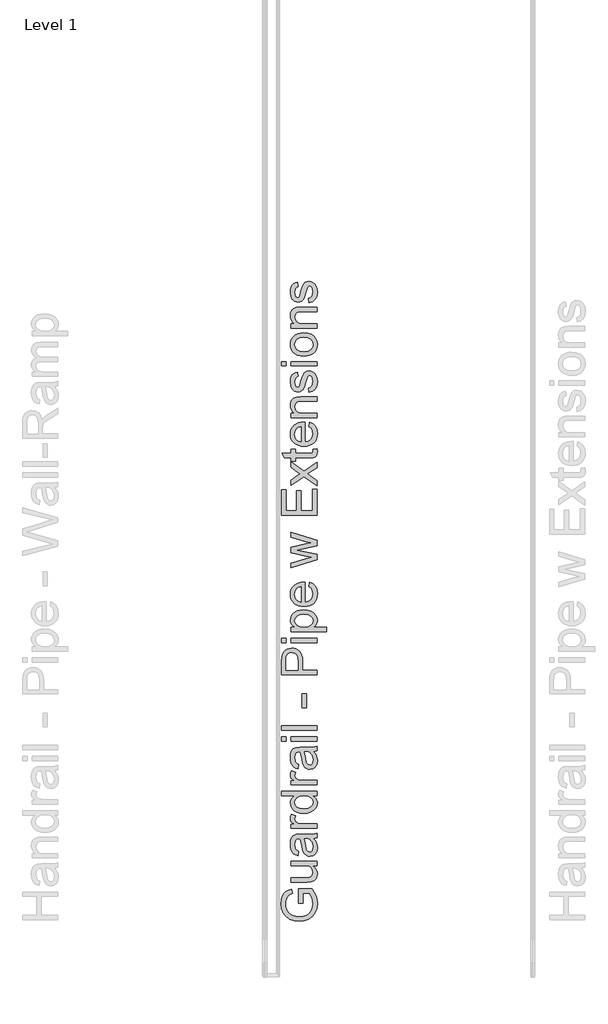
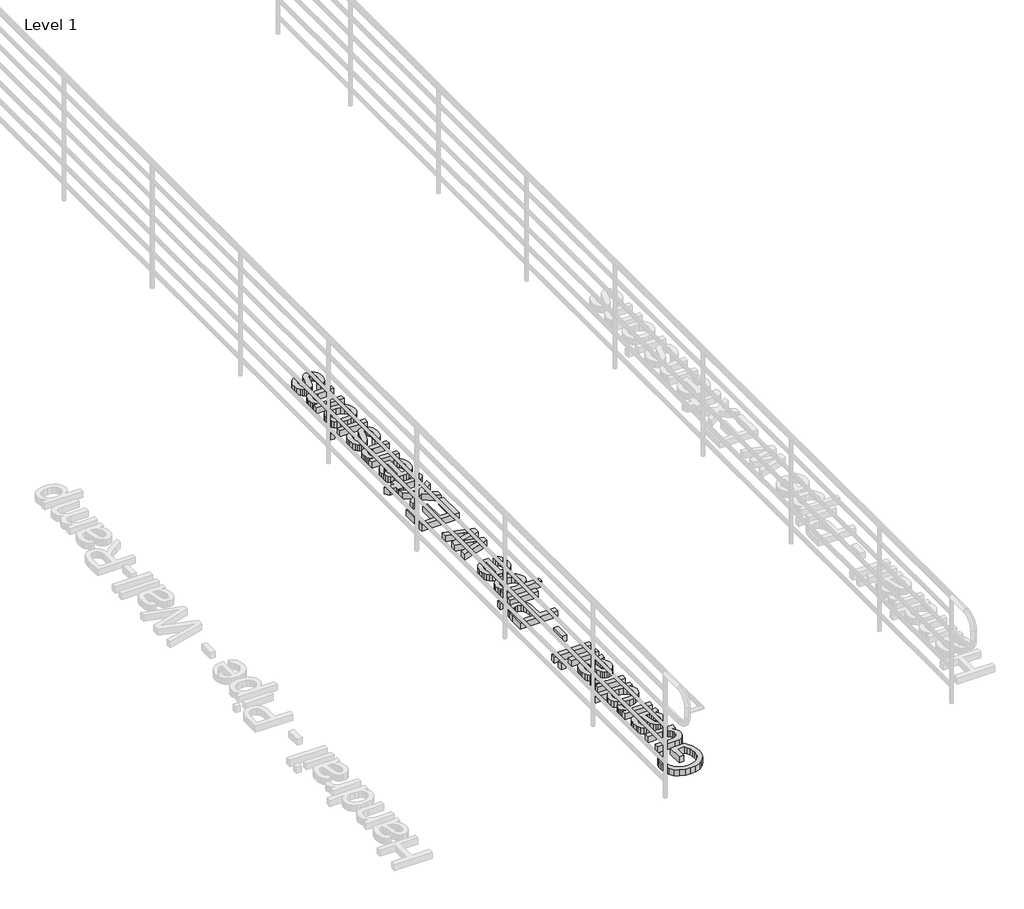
# One storey, part 10 of 14: 1 proxy.
"""IFC4 building model written with IfcOpenShell, lengths in millimetres."""

from ifc_helpers import new_model, si_unit, origin, origin_with_axes, place, context, project, spatial, polyline, outline, extrude, element, save

model = new_model("IFC4")

# Units and contexts
model_context = context("Model", 3, world=origin())
ifc_project = project(units=[si_unit("LENGTHUNIT", "METRE", prefix="MILLI")], contexts=[model_context])

# Site, building, storey
site = spatial("IfcSite", under=ifc_project)
building = spatial("IfcBuilding", under=site)
storey = spatial("IfcBuildingStorey", under=building, Name="Level 1", Elevation=0.0)

# Proxy
placement = place(None, origin())
element("IfcBuildingElementProxy", 1, Name="12\" Arial", ObjectType="12\" Arial", at=placement, inside=storey, context=model_context, shape_type="SweptSolid", body=[
    extrude(outline(polyline([(-3457.7431826, -14350.6919282), (-3495.2570288, -14350.6919282), (-3495.2570288, -14228.7719282), (-3383.0818365, -14228.7719282), (-3362.4748653, -14258.4001734), (-3347.692798, -14288.9626013), (-3338.7905865, -14320.3859426), (-3335.8231826, -14352.5969282), (-3340.5398894, -14394.6809426), (-3354.6900095, -14432.716832), (-3377.7789759, -14464.3141878), (-3409.3122211, -14487.0826013), (-3447.1374615, -14500.848058), (-3489.1024134, -14505.4365436), (-3531.3696009, -14500.8663753), (-3570.6877019, -14487.1558705), (-3603.6680144, -14464.8728657), (-3626.9218365, -14434.5851974), (-3640.7147692, -14397.6941397), (-3645.3124134, -14355.6009666), (-3642.6472451, -14324.6996686), (-3634.6517403, -14296.9123128), (-3621.9028942, -14273.5119522), (-3604.9777019, -14255.7716397), (-3583.0610432, -14242.6472888), (-3555.337798, -14233.0948128), (-3545.5929903, -14267.6778897), (-3565.366524, -14275.3986349), (-3580.2859711, -14284.7862551), (-3591.532798, -14297.2053897), (-3600.2884711, -14314.0206782), (-3605.9210432, -14334.0689714), (-3607.7985672, -14356.1871205), (-3605.7745047, -14382.0786349), (-3599.7023172, -14404.2151013), (-3590.342173, -14422.5140916), (-3578.4542403, -14436.8931782), (-3549.5495288, -14456.1996205), (-3521.2309711, -14464.9919282), (-3490.6410672, -14467.9226974), (-3454.7666201, -14464.3966157), (-3425.2482788, -14453.8183705), (-3402.2966922, -14436.5085147), (-3386.1225095, -14412.7876013), (-3376.533399, -14385.0277214), (-3373.3370288, -14355.6009666), (-3375.7457547, -14329.6178657), (-3382.9719326, -14304.2758705), (-3392.9273894, -14282.2676253), (-3403.5239519, -14266.2857743), (-3457.7431826, -14266.2857743), (-3457.7431826, -14350.6919282)])), origin_with_axes(), (0.0, 0.0, 1.0), 50.8),
    extrude(outline(polyline([(-3340.5124134, -14031.8242359), (-3378.3926057, -14031.8242359), (-3359.7684831, -14045.3973609), (-3346.4655384, -14061.2051974), (-3338.4837716, -14079.2477455), (-3335.8231826, -14099.5250051), (-3337.691548, -14117.7965195), (-3343.2966442, -14134.8041397), (-3351.7226057, -14149.0733224), (-3362.0535672, -14159.1295243), (-3389.6760672, -14170.303082), (-3424.5522211, -14172.5011589), (-3560.9062595, -14172.5011589), (-3560.9062595, -14134.9873128), (-3442.2101057, -14134.9873128), (-3403.9635672, -14132.7159666), (-3391.2055624, -14127.2482503), (-3381.506548, -14117.8789474), (-3375.3794086, -14105.2308464), (-3373.3370288, -14089.9267359), (-3375.4252019, -14073.7433945), (-3381.6897211, -14058.6041397), (-3391.5535913, -14046.1208945), (-3404.4398172, -14037.905582), (-3422.0885432, -14033.3445724), (-3446.2399134, -14031.8242359), (-3560.9062595, -14031.8242359), (-3560.9062595, -13994.3103897), (-3340.5124134, -13994.3103897), (-3340.5124134, -14031.8242359)])), origin_with_axes(), (0.0, 0.0, 1.0), 50.8),
    extrude(outline(polyline([(-3368.647798, -13802.0519282), (-3353.2795769, -13819.9754138), (-3343.2233749, -13838.4301013), (-3337.6732307, -13857.8372888), (-3335.8231826, -13878.6182743), (-3340.2742884, -13909.9683464), (-3353.6276057, -13933.0939474), (-3373.9048653, -13947.3539714), (-3399.127798, -13952.1073128), (-3414.6791922, -13950.3122166), (-3428.8018365, -13944.9269282), (-3440.8912595, -13936.6200291), (-3450.3429903, -13926.0601013), (-3462.6522211, -13899.793082), (-3468.2939519, -13867.3348128), (-3474.2287595, -13828.9783705), (-3481.1893365, -13802.2717359), (-3489.5420288, -13802.0519282), (-3506.284048, -13804.6346686), (-3517.237798, -13812.3828897), (-3525.3706826, -13829.7110628), (-3528.0816442, -13853.8532743), (-3526.2773894, -13876.2003897), (-3520.8646249, -13891.8067359), (-3510.8542163, -13902.4490916), (-3495.2570288, -13909.9042359), (-3499.9462595, -13947.418082), (-3520.4616442, -13940.9062791), (-3536.5808749, -13931.1889474), (-3548.908423, -13917.3593801), (-3558.0487595, -13898.5108705), (-3563.7088076, -13875.4585388), (-3565.5954903, -13849.0175051), (-3563.9286153, -13823.6571926), (-3558.9279903, -13803.5539474), (-3551.4087355, -13788.3963753), (-3542.1859711, -13777.873082), (-3530.783447, -13770.8941878), (-3516.7249134, -13766.3698128), (-3483.900298, -13764.538082), (-3437.227798, -13764.538082), (-3372.0548172, -13762.633082), (-3340.5124134, -13755.1596205), (-3340.5124134, -13792.6734666), (-3368.647798, -13802.0519282)]), holes=[polyline([(-3443.6754903, -13802.0519282), (-3432.1722211, -13862.5723128), (-3426.0908749, -13894.8474089), (-3416.1995288, -13909.4646205), (-3401.7654903, -13914.5934666), (-3390.6102499, -13911.8000772), (-3381.4699134, -13903.4199089), (-3375.3702499, -13889.6361349), (-3373.3370288, -13870.6319282), (-3375.580899, -13850.4828897), (-3382.3125095, -13832.6784666), (-3392.2313317, -13818.2444282), (-3404.0368365, -13808.2065436), (-3416.1995288, -13803.7554378), (-3433.0514519, -13802.2717359), (-3443.6754903, -13802.0519282)])]), origin_with_axes(), (0.0, 0.0, 1.0), 50.8),
    extrude(outline(polyline([(-3340.5124134, -13712.9565436), (-3560.9062595, -13712.9565436), (-3560.9062595, -13680.1319282), (-3528.3014519, -13680.1319282), (-3547.2049134, -13668.0058705), (-3558.3418365, -13656.8323128), (-3563.7820769, -13645.6221205), (-3565.5954903, -13633.3861589), (-3562.7013557, -13614.7025051), (-3554.0189519, -13595.7257743), (-3520.3883749, -13608.2548128), (-3526.1583269, -13621.4432743), (-3528.0816442, -13634.6317359), (-3526.2315961, -13645.8327695), (-3520.6814519, -13655.8431782), (-3511.8525095, -13663.9302695), (-3500.1660672, -13669.3613513), (-3479.2110672, -13673.9223609), (-3456.3510672, -13675.4426974), (-3340.5124134, -13675.4426974), (-3340.5124134, -13712.9565436)])), origin_with_axes(), (0.0, 0.0, 1.0), 50.8),
    extrude(outline(polyline([(-3340.5124134, -13436.2919282), (-3375.9014519, -13436.2919282), (-3358.3672091, -13447.5158585), (-3345.8427499, -13461.1118801), (-3338.3280745, -13477.0799931), (-3335.8231826, -13495.4201974), (-3339.4500095, -13519.6723128), (-3350.3304903, -13541.8728897), (-3367.7044567, -13560.6664474), (-3390.8117403, -13574.6975051), (-3418.7181586, -13583.4348609), (-3450.4895288, -13586.3473128), (-3481.8670769, -13583.6638272), (-3510.2039519, -13575.6133705), (-3533.8882307, -13562.2051013), (-3551.3079903, -13543.4481782), (-3562.0236153, -13520.7621926), (-3565.5954903, -13495.5667359), (-3563.0402259, -13477.2127936), (-3555.3744326, -13460.9836589), (-3543.6238797, -13447.2273609), (-3528.8143365, -13436.2919282), (-3640.6231826, -13436.2919282), (-3640.6231826, -13398.778082), (-3340.5124134, -13398.778082), (-3340.5124134, -13436.2919282)]), holes=[polyline([(-3450.6360672, -13548.8334666), (-3416.7032547, -13544.6021686), (-3392.5702019, -13531.9082743), (-3378.145322, -13513.4627455), (-3373.3370288, -13491.9765436), (-3377.9255144, -13470.4995003), (-3391.6909711, -13452.5210628), (-3414.8898413, -13440.3492118), (-3447.7785672, -13436.2919282), (-3483.7354422, -13440.4224811), (-3508.665298, -13452.8141397), (-3523.2275576, -13471.2505099), (-3528.0816442, -13493.5151974), (-3523.4198894, -13515.221207), (-3509.4346249, -13533.0073128), (-3485.4114759, -13544.8769282), (-3450.6360672, -13548.8334666)])]), origin_with_axes(), (0.0, 0.0, 1.0), 50.8),
    extrude(outline(polyline([(-3340.5124134, -13342.5073128), (-3560.9062595, -13342.5073128), (-3560.9062595, -13309.6826974), (-3528.3014519, -13309.6826974), (-3547.2049134, -13297.5566397), (-3558.3418365, -13286.383082), (-3563.7820769, -13275.1728897), (-3565.5954903, -13262.9369282), (-3562.7013557, -13244.2532743), (-3554.0189519, -13225.2765436), (-3520.3883749, -13237.805582), (-3526.1583269, -13250.9940436), (-3528.0816442, -13264.1825051), (-3526.2315961, -13275.3835388), (-3520.6814519, -13285.3939474), (-3511.8525095, -13293.4810388), (-3500.1660672, -13298.9121205), (-3479.2110672, -13303.4731301), (-3456.3510672, -13304.9934666), (-3340.5124134, -13304.9934666), (-3340.5124134, -13342.5073128)])), origin_with_axes(), (0.0, 0.0, 1.0), 50.8),
    extrude(outline(polyline([(-3368.647798, -13061.1534666), (-3353.2795769, -13079.0769522), (-3343.2233749, -13097.5316397), (-3337.6732307, -13116.9388272), (-3335.8231826, -13137.7198128), (-3340.2742884, -13169.0698849), (-3353.6276057, -13192.1954859), (-3373.9048653, -13206.4555099), (-3399.127798, -13211.2088513), (-3414.6791922, -13209.4137551), (-3428.8018365, -13204.0284666), (-3440.8912595, -13195.7215676), (-3450.3429903, -13185.1616397), (-3462.6522211, -13158.8946205), (-3468.2939519, -13126.4363513), (-3474.2287595, -13088.0799089), (-3481.1893365, -13061.3732743), (-3489.5420288, -13061.1534666), (-3506.284048, -13063.736207), (-3517.237798, -13071.4844282), (-3525.3706826, -13088.8126013), (-3528.0816442, -13112.9548128), (-3526.2773894, -13135.3019282), (-3520.8646249, -13150.9082743), (-3510.8542163, -13161.5506301), (-3495.2570288, -13169.0057743), (-3499.9462595, -13206.5196205), (-3520.4616442, -13200.0078176), (-3536.5808749, -13190.2904859), (-3548.908423, -13176.4609186), (-3558.0487595, -13157.6124089), (-3563.7088076, -13134.5600772), (-3565.5954903, -13108.1190436), (-3563.9286153, -13082.7587311), (-3558.9279903, -13062.6554859), (-3551.4087355, -13047.4979138), (-3542.1859711, -13036.9746205), (-3530.783447, -13029.9957263), (-3516.7249134, -13025.4713513), (-3483.900298, -13023.6396205), (-3437.227798, -13023.6396205), (-3372.0548172, -13021.7346205), (-3340.5124134, -13014.2611589), (-3340.5124134, -13051.7750051), (-3368.647798, -13061.1534666)]), holes=[polyline([(-3443.6754903, -13061.1534666), (-3432.1722211, -13121.6738513), (-3426.0908749, -13153.9489474), (-3416.1995288, -13168.5661589), (-3401.7654903, -13173.6950051), (-3390.6102499, -13170.9016157), (-3381.4699134, -13162.5214474), (-3375.3702499, -13148.7376734), (-3373.3370288, -13129.7334666), (-3375.580899, -13109.5844282), (-3382.3125095, -13091.7800051), (-3392.2313317, -13077.3459666), (-3404.0368365, -13067.308082), (-3416.1995288, -13062.8569763), (-3433.0514519, -13061.3732743), (-3443.6754903, -13061.1534666)])]), origin_with_axes(), (0.0, 0.0, 1.0), 50.8),
    extrude(outline(polyline([(-3603.1093365, -12972.058082), (-3640.6231826, -12972.058082), (-3640.6231826, -12934.5442359), (-3603.1093365, -12934.5442359), (-3603.1093365, -12972.058082)])), origin_with_axes(), (0.0, 0.0, 1.0), 50.8),
    extrude(outline(polyline([(-3340.5124134, -12972.058082), (-3560.9062595, -12972.058082), (-3560.9062595, -12934.5442359), (-3340.5124134, -12934.5442359), (-3340.5124134, -12972.058082)])), origin_with_axes(), (0.0, 0.0, 1.0), 50.8),
    extrude(outline(polyline([(-3340.5124134, -12878.2734666), (-3640.6231826, -12878.2734666), (-3640.6231826, -12840.7596205), (-3340.5124134, -12840.7596205), (-3340.5124134, -12878.2734666)])), origin_with_axes(), (0.0, 0.0, 1.0), 50.8),
    extrude(outline(polyline([(-3429.607798, -12686.0150051), (-3467.1216442, -12686.0150051), (-3467.1216442, -12568.7842359), (-3429.607798, -12568.7842359), (-3429.607798, -12686.0150051)])), origin_with_axes(), (0.0, 0.0, 1.0), 50.8),
    extrude(outline(polyline([(-3340.5124134, -12404.6611589), (-3640.6231826, -12404.6611589), (-3640.6231826, -12293.4384666), (-3637.7656826, -12248.5976974), (-3632.4261874, -12228.6043561), (-3623.7346249, -12212.1462551), (-3611.297173, -12198.893683), (-3594.7200095, -12188.5169282), (-3575.1662836, -12181.8127936), (-3553.7991442, -12179.578082), (-3535.376512, -12181.0869702), (-3518.428423, -12185.6136349), (-3502.9548773, -12193.158076), (-3488.9558749, -12203.7202936), (-3477.3518605, -12218.2207323), (-3469.0632788, -12237.5798368), (-3464.0901297, -12261.7976073), (-3462.4324134, -12290.8740436), (-3462.4324134, -12367.1473128), (-3340.5124134, -12367.1473128), (-3340.5124134, -12404.6611589)]), holes=[polyline([(-3499.9462595, -12367.1473128), (-3499.9462595, -12288.6759666), (-3503.3899134, -12255.4117359), (-3513.7208749, -12233.4309666), (-3530.2980384, -12221.1766878), (-3552.480298, -12217.0919282), (-3569.3322211, -12219.5006541), (-3583.5464519, -12226.726832), (-3594.2437595, -12237.8729138), (-3600.5449134, -12252.0413513), (-3603.1093365, -12289.5551974), (-3603.1093365, -12367.1473128), (-3499.9462595, -12367.1473128)])]), origin_with_axes(), (0.0, 0.0, 1.0), 50.8),
    extrude(outline(polyline([(-3603.1093365, -12132.6857743), (-3640.6231826, -12132.6857743), (-3640.6231826, -12095.1719282), (-3603.1093365, -12095.1719282), (-3603.1093365, -12132.6857743)])), origin_with_axes(), (0.0, 0.0, 1.0), 50.8),
    extrude(outline(polyline([(-3340.5124134, -12132.6857743), (-3560.9062595, -12132.6857743), (-3560.9062595, -12095.1719282), (-3340.5124134, -12095.1719282), (-3340.5124134, -12132.6857743)])), origin_with_axes(), (0.0, 0.0, 1.0), 50.8),
    extrude(outline(polyline([(-3256.1062595, -12038.9011589), (-3560.9062595, -12038.9011589), (-3560.9062595, -12001.3873128), (-3524.1251057, -12001.3873128), (-3542.268399, -11989.1513513), (-3555.2278942, -11975.4500051), (-3563.0035913, -11959.4773128), (-3565.5954903, -11940.4273128), (-3561.9686634, -11915.0578416), (-3551.0881826, -11892.875582), (-3533.6134711, -11874.8147166), (-3510.2039519, -11861.8094282), (-3482.5631345, -11853.9513032), (-3452.3945288, -11851.3319282), (-3420.3117644, -11854.2901734), (-3391.6177019, -11863.1649089), (-3367.7685672, -11877.6722166), (-3350.2205865, -11897.5281782), (-3339.4225336, -11920.6537791), (-3335.8231826, -11944.9700051), (-3338.2319086, -11962.2157503), (-3345.4580865, -11977.6114474), (-3356.3660432, -11990.7907503), (-3369.8201057, -12001.3873128), (-3256.1062595, -12001.3873128), (-3256.1062595, -12038.9011589)]), holes=[polyline([(-3448.9508749, -12001.3873128), (-3415.320298, -11997.3300291), (-3391.8008749, -11985.1581782), (-3377.9529903, -11967.198058), (-3373.3370288, -11945.7759666), (-3378.1178461, -11924.0058464), (-3392.460298, -11905.5877936), (-3416.8406345, -11893.0312791), (-3451.7351057, -11888.8457743), (-3485.1825095, -11892.9305339), (-3509.0316442, -11905.1848128), (-3523.3191442, -11923.117457), (-3528.0816442, -11944.2373128), (-3523.0169086, -11965.4395964), (-3507.8227019, -11984.0591397), (-3482.975274, -11997.0552695), (-3448.9508749, -12001.3873128)])]), origin_with_axes(), (0.0, 0.0, 1.0), 50.8),
    extrude(outline(polyline([(-3406.1616442, -11654.8238513), (-3401.4724134, -11618.0426974), (-3373.7583269, -11631.2952695), (-3353.0414519, -11652.4426013), (-3340.1277499, -11681.0084426), (-3335.8231826, -11716.5165436), (-3337.6800997, -11739.7932623), (-3343.2508509, -11760.5330339), (-3352.5354362, -11778.7358585), (-3365.5338557, -11794.4017359), (-3381.8843425, -11806.9994642), (-3401.2251297, -11815.9978416), (-3423.5562175, -11821.3968681), (-3448.8776057, -11823.1965436), (-3475.0576177, -11821.3785508), (-3498.1328461, -11815.9245724), (-3518.1032908, -11806.8346085), (-3534.9689519, -11794.1086589), (-3548.3680624, -11778.4839955), (-3557.9388557, -11760.6978897), (-3563.6813317, -11740.7503416), (-3565.5954903, -11718.6413513), (-3563.685911, -11697.2444462), (-3557.957173, -11677.8945003), (-3548.4092764, -11660.5915135), (-3535.0422211, -11645.3354859), (-3518.2131946, -11632.8820063), (-3498.2793845, -11623.9866638), (-3475.2407908, -11618.6494582), (-3449.0974134, -11616.8703897), (-3438.9862595, -11617.0901974), (-3438.9862595, -11785.6826974), (-3410.9058269, -11779.1892118), (-3390.2622211, -11764.1049089), (-3377.5683269, -11742.3347888), (-3373.3370288, -11715.7838513), (-3375.2969807, -11695.8179859), (-3381.1768365, -11679.0026974), (-3391.3429422, -11665.3379859), (-3406.1616442, -11654.8238513)]), holes=[polyline([(-3476.5001057, -11785.6826974), (-3476.5001057, -11654.3842359), (-3496.3194326, -11659.4581301), (-3510.4970288, -11669.4044282), (-3523.6854903, -11691.2752936), (-3528.0816442, -11718.7878897), (-3524.5738797, -11744.074933), (-3514.0505865, -11764.9841397), (-3497.6474374, -11779.5189234), (-3476.5001057, -11785.6826974)])]), origin_with_axes(), (0.0, 0.0, 1.0), 50.8),
    extrude(outline(polyline([(-3340.5124134, -11425.5644282), (-3560.9062595, -11492.6057743), (-3560.9062595, -11453.6265436), (-3432.3187595, -11415.5998128), (-3386.3789519, -11404.243082), (-3430.6335672, -11394.9378897), (-3560.9062595, -11364.6776974), (-3560.9062595, -11319.9834666), (-3430.9999134, -11289.8698128), (-3390.9216442, -11281.5903897), (-3433.1979903, -11269.7207743), (-3560.9062595, -11231.6207743), (-3560.9062595, -11192.4950051), (-3340.5124134, -11260.0492359), (-3340.5124134, -11305.4028897), (-3469.7593365, -11334.1976974), (-3510.0574134, -11342.5503897), (-3340.5124134, -11379.6978897), (-3340.5124134, -11425.5644282)])), origin_with_axes(), (0.0, 0.0, 1.0), 50.8),
    extrude(outline(polyline([(-3340.5124134, -11044.7842359), (-3640.6231826, -11044.7842359), (-3640.6231826, -10829.0796205), (-3603.1093365, -10829.0796205), (-3603.1093365, -11007.2703897), (-3514.0139519, -11007.2703897), (-3514.0139519, -10838.458082), (-3476.5001057, -10838.458082), (-3476.5001057, -11007.2703897), (-3378.0262595, -11007.2703897), (-3378.0262595, -10824.3903897), (-3340.5124134, -10824.3903897), (-3340.5124134, -11044.7842359)])), origin_with_axes(), (0.0, 0.0, 1.0), 50.8),
    extrude(outline(polyline([(-3340.5124134, -10796.2550051), (-3451.2954903, -10716.0984666), (-3560.9062595, -10791.5657743), (-3560.9062595, -10746.4319282), (-3508.1524134, -10710.0171205), (-3483.2408749, -10693.0186589), (-3503.6097211, -10678.2915436), (-3560.9062595, -10636.8211589), (-3560.9062595, -10591.6873128), (-3451.2954903, -10670.9646205), (-3340.5124134, -10594.618082), (-3340.5124134, -10639.7519282), (-3407.1141442, -10685.6917359), (-3419.2768365, -10694.1176974), (-3340.5124134, -10751.1211589), (-3340.5124134, -10796.2550051)])), origin_with_axes(), (0.0, 0.0, 1.0), 50.8),
    extrude(outline(polyline([(-3371.7983749, -10482.0765436), (-3339.4133749, -10477.3873128), (-3335.8231826, -10505.4494282), (-3337.3801538, -10523.4553416), (-3342.0510672, -10536.8819282), (-3349.2497692, -10546.3702936), (-3358.3901057, -10552.5615436), (-3374.0880384, -10555.9685628), (-3400.9595288, -10557.1042359), (-3523.3924134, -10557.1042359), (-3523.3924134, -10585.2396205), (-3560.9062595, -10585.2396205), (-3560.9062595, -10557.1042359), (-3614.4660672, -10557.1042359), (-3636.5201057, -10519.5903897), (-3560.9062595, -10519.5903897), (-3560.9062595, -10482.0765436), (-3523.3924134, -10482.0765436), (-3523.3924134, -10519.5903897), (-3402.0585672, -10519.5903897), (-3382.7154903, -10517.6121205), (-3375.8648172, -10511.2010628), (-3373.3370288, -10498.415582), (-3371.7983749, -10482.0765436)])), origin_with_axes(), (0.0, 0.0, 1.0), 50.8),
    extrude(outline(polyline([(-3406.1616442, -10290.2576974), (-3401.4724134, -10253.4765436), (-3373.7583269, -10266.7291157), (-3353.0414519, -10287.8764474), (-3340.1277499, -10316.4422888), (-3335.8231826, -10351.9503897), (-3337.6800997, -10375.2271085), (-3343.2508509, -10395.9668801), (-3352.5354362, -10414.1697046), (-3365.5338557, -10429.835582), (-3381.8843425, -10442.4333104), (-3401.2251297, -10451.4316878), (-3423.5562175, -10456.8307142), (-3448.8776057, -10458.6303897), (-3475.0576177, -10456.8123969), (-3498.1328461, -10451.3584186), (-3518.1032908, -10442.2684546), (-3534.9689519, -10429.5425051), (-3548.3680624, -10413.9178416), (-3557.9388557, -10396.1317359), (-3563.6813317, -10376.1841878), (-3565.5954903, -10354.0751974), (-3563.685911, -10332.6782924), (-3557.957173, -10313.3283464), (-3548.4092764, -10296.0253597), (-3535.0422211, -10280.769332), (-3518.2131946, -10268.3158525), (-3498.2793845, -10259.4205099), (-3475.2407908, -10254.0833044), (-3449.0974134, -10252.3042359), (-3438.9862595, -10252.5240436), (-3438.9862595, -10421.1165436), (-3410.9058269, -10414.623058), (-3390.2622211, -10399.5387551), (-3377.5683269, -10377.7686349), (-3373.3370288, -10351.2176974), (-3375.2969807, -10331.251832), (-3381.1768365, -10314.4365436), (-3391.3429422, -10300.771832), (-3406.1616442, -10290.2576974)]), holes=[polyline([(-3476.5001057, -10421.1165436), (-3476.5001057, -10289.818082), (-3496.3194326, -10294.8919763), (-3510.4970288, -10304.8382743), (-3523.6854903, -10326.7091397), (-3528.0816442, -10354.2217359), (-3524.5738797, -10379.5087791), (-3514.0505865, -10400.4179859), (-3497.6474374, -10414.9527695), (-3476.5001057, -10421.1165436)])]), origin_with_axes(), (0.0, 0.0, 1.0), 50.8),
    extrude(outline(polyline([(-3340.5124134, -10214.7903897), (-3560.9062595, -10214.7903897), (-3560.9062595, -10177.2765436), (-3530.1331826, -10177.2765436), (-3545.6479422, -10164.2437791), (-3556.7299134, -10148.5916397), (-3563.3790961, -10130.3201253), (-3565.5954903, -10109.4292359), (-3563.8095528, -10090.9379138), (-3558.4517403, -10074.0035628), (-3550.1906345, -10059.8809186), (-3539.6948172, -10049.8247166), (-3512.1089519, -10038.5778897), (-3475.8406826, -10036.5996205), (-3340.5124134, -10036.5996205), (-3340.5124134, -10074.1134666), (-3470.7851057, -10074.1134666), (-3503.9760672, -10078.4363513), (-3513.8582547, -10084.4169522), (-3521.524048, -10093.7129859), (-3526.4422451, -10105.6283945), (-3528.0816442, -10119.4671205), (-3524.3998653, -10141.4387311), (-3513.3545288, -10160.1681782), (-3504.3378341, -10167.653088), (-3492.0148653, -10172.9994522), (-3457.4501057, -10177.2765436), (-3340.5124134, -10177.2765436), (-3340.5124134, -10214.7903897)])), origin_with_axes(), (0.0, 0.0, 1.0), 50.8),
    extrude(outline(polyline([(-3406.1616442, -9999.0857743), (-3410.8508749, -9961.5719282), (-3394.8049134, -9955.6554378), (-3383.0085672, -9944.2071205), (-3375.7549134, -9927.153707), (-3373.3370288, -9904.4219282), (-3375.553423, -9881.9649089), (-3382.2026057, -9866.1753897), (-3391.8375095, -9856.8335628), (-3403.0110672, -9853.7196205), (-3412.5727019, -9856.8518801), (-3419.8629903, -9866.2486589), (-3430.560298, -9904.8615436), (-3448.9142403, -9961.3521205), (-3458.1370047, -9975.6487791), (-3470.3454903, -9986.0072166), (-3484.7612115, -9992.2992118), (-3500.6056826, -9994.3965436), (-3515.1404663, -9992.7113513), (-3528.5578942, -9987.6557743), (-3540.3267644, -9979.6877455), (-3549.9158749, -9969.2651974), (-3561.0161634, -9945.4160628), (-3565.5954903, -9913.1409666), (-3563.7546009, -9888.7239955), (-3558.2319326, -9867.4942359), (-3549.5678461, -9850.4225051), (-3538.3027019, -9838.4796205), (-3523.6030624, -9830.5665436), (-3504.6354903, -9825.5842359), (-3499.9462595, -9863.098082), (-3511.7517644, -9867.8331061), (-3520.6448172, -9877.2024089), (-3526.2224374, -9891.2975772), (-3528.0816442, -9910.2101974), (-3526.3048653, -9931.7513513), (-3520.9745288, -9946.1121205), (-3513.2812595, -9954.1900532), (-3504.4156826, -9956.8826974), (-3493.4985672, -9952.4132743), (-3485.2191442, -9938.4188513), (-3477.232798, -9906.1071205), (-3459.5749134, -9851.0452936), (-3451.1306345, -9836.5013513), (-3439.5724134, -9825.474332), (-3424.8636153, -9818.5229138), (-3406.9676057, -9816.2057743), (-3388.4671249, -9818.9258945), (-3371.0656826, -9827.0862551), (-3356.1279182, -9840.3754618), (-3345.0184711, -9858.4821205), (-3338.1220047, -9880.3529859), (-3335.8231826, -9904.9348128), (-3340.2559711, -9942.7600532), (-3353.5543365, -9970.3642359), (-3375.5717403, -9988.7914474), (-3406.1616442, -9999.0857743)])), origin_with_axes(), (0.0, 0.0, 1.0), 50.8),
    extrude(outline(polyline([(-3603.1093365, -9774.0026974), (-3640.6231826, -9774.0026974), (-3640.6231826, -9736.4888513), (-3603.1093365, -9736.4888513), (-3603.1093365, -9774.0026974)])), origin_with_axes(), (0.0, 0.0, 1.0), 50.8),
    extrude(outline(polyline([(-3340.5124134, -9774.0026974), (-3560.9062595, -9774.0026974), (-3560.9062595, -9736.4888513), (-3340.5124134, -9736.4888513), (-3340.5124134, -9774.0026974)])), origin_with_axes(), (0.0, 0.0, 1.0), 50.8),
    extrude(outline(polyline([(-3450.7093365, -9689.5965436), (-3479.2522812, -9687.5679017), (-3503.8478461, -9681.4819763), (-3524.4960312, -9671.3387671), (-3541.1968365, -9657.1382743), (-3551.8712475, -9642.8416157), (-3559.4958269, -9627.0612551), (-3564.0705745, -9609.7971926), (-3565.5954903, -9591.0494282), (-3563.7385733, -9570.3531601), (-3558.167822, -9551.6397407), (-3548.8832367, -9534.9091698), (-3535.8848172, -9520.1614474), (-3519.612179, -9508.1246866), (-3500.5049374, -9499.5270003), (-3478.5630925, -9494.3683885), (-3453.7866442, -9492.6488513), (-3415.8881345, -9495.6895243), (-3387.0383749, -9504.8115436), (-3365.4331105, -9519.749308), (-3349.2680865, -9540.2372166), (-3339.1844086, -9564.5717599), (-3335.8231826, -9591.0494282), (-3337.6732307, -9612.0479318), (-3343.2233749, -9630.9353657), (-3352.4736153, -9647.7117299), (-3365.4239519, -9662.3770243), (-3381.8545769, -9674.285564), (-3401.5456826, -9682.7916638), (-3424.4972692, -9687.8953236), (-3450.7093365, -9689.5965436)]), holes=[polyline([(-3450.7826057, -9652.0826974), (-3416.8314759, -9647.7414955), (-3392.6434711, -9634.7178897), (-3378.1636394, -9615.1183705), (-3373.3370288, -9591.0494282), (-3378.1911153, -9567.0903897), (-3392.7533749, -9547.5275051), (-3417.2619326, -9534.5038993), (-3451.9549134, -9530.1626974), (-3484.9169086, -9534.5313753), (-3508.7752019, -9547.6374089), (-3523.2550336, -9567.2277695), (-3528.0816442, -9591.0494282), (-3523.2733509, -9615.1183705), (-3508.8484711, -9634.7178897), (-3484.7154182, -9647.7414955), (-3450.7826057, -9652.0826974)])]), origin_with_axes(), (0.0, 0.0, 1.0), 50.8),
    extrude(outline(polyline([(-3340.5124134, -9450.4457743), (-3560.9062595, -9450.4457743), (-3560.9062595, -9412.9319282), (-3530.1331826, -9412.9319282), (-3545.6479422, -9399.8991638), (-3556.7299134, -9384.2470243), (-3563.3790961, -9365.9755099), (-3565.5954903, -9345.0846205), (-3563.8095528, -9326.5932984), (-3558.4517403, -9309.6589474), (-3550.1906345, -9295.5363032), (-3539.6948172, -9285.4801013), (-3512.1089519, -9274.2332743), (-3475.8406826, -9272.2550051), (-3340.5124134, -9272.2550051), (-3340.5124134, -9309.7688513), (-3470.7851057, -9309.7688513), (-3503.9760672, -9314.0917359), (-3513.8582547, -9320.0723368), (-3521.524048, -9329.3683705), (-3526.4422451, -9341.2837791), (-3528.0816442, -9355.1225051), (-3524.3998653, -9377.0941157), (-3513.3545288, -9395.8235628), (-3504.3378341, -9403.3084726), (-3492.0148653, -9408.6548368), (-3457.4501057, -9412.9319282), (-3340.5124134, -9412.9319282), (-3340.5124134, -9450.4457743)])), origin_with_axes(), (0.0, 0.0, 1.0), 50.8),
    extrude(outline(polyline([(-3406.1616442, -9234.7411589), (-3410.8508749, -9197.2273128), (-3394.8049134, -9191.3108224), (-3383.0085672, -9179.8625051), (-3375.7549134, -9162.8090916), (-3373.3370288, -9140.0773128), (-3375.553423, -9117.6202936), (-3382.2026057, -9101.8307743), (-3391.8375095, -9092.4889474), (-3403.0110672, -9089.3750051), (-3412.5727019, -9092.5072647), (-3419.8629903, -9101.9040436), (-3430.560298, -9140.5169282), (-3448.9142403, -9197.0075051), (-3458.1370047, -9211.3041638), (-3470.3454903, -9221.6626013), (-3484.7612115, -9227.9545964), (-3500.6056826, -9230.0519282), (-3515.1404663, -9228.3667359), (-3528.5578942, -9223.3111589), (-3540.3267644, -9215.3431301), (-3549.9158749, -9204.920582), (-3561.0161634, -9181.0714474), (-3565.5954903, -9148.7963513), (-3563.7546009, -9124.3793801), (-3558.2319326, -9103.1496205), (-3549.5678461, -9086.0778897), (-3538.3027019, -9074.1350051), (-3523.6030624, -9066.2219282), (-3504.6354903, -9061.2396205), (-3499.9462595, -9098.7534666), (-3511.7517644, -9103.4884907), (-3520.6448172, -9112.8577936), (-3526.2224374, -9126.9529618), (-3528.0816442, -9145.865582), (-3526.3048653, -9167.4067359), (-3520.9745288, -9181.7675051), (-3513.2812595, -9189.8454378), (-3504.4156826, -9192.538082), (-3493.4985672, -9188.0686589), (-3485.2191442, -9174.0742359), (-3477.232798, -9141.7625051), (-3459.5749134, -9086.7006782), (-3451.1306345, -9072.1567359), (-3439.5724134, -9061.1297166), (-3424.8636153, -9054.1782984), (-3406.9676057, -9051.8611589), (-3388.4671249, -9054.5812791), (-3371.0656826, -9062.7416397), (-3356.1279182, -9076.0308464), (-3345.0184711, -9094.1375051), (-3338.1220047, -9116.0083705), (-3335.8231826, -9140.5901974), (-3340.2559711, -9178.4154378), (-3353.5543365, -9206.0196205), (-3375.5717403, -9224.446832), (-3406.1616442, -9234.7411589)])), origin_with_axes(), (0.0, 0.0, 1.0), 50.8),
])

save(model, "model.ifc")
